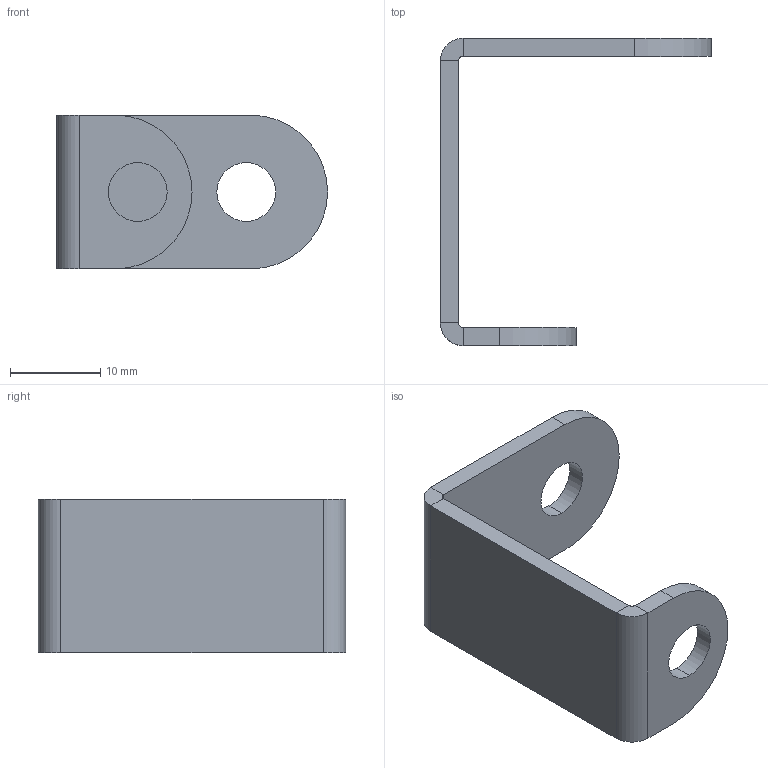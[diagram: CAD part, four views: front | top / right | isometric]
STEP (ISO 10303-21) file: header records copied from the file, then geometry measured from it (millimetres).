
FILE_DESCRIPTION (( 'STEP AP214' ), '1' );
FILE_NAME ('1C.906.003.STEP', '2011-10-05T10:29:22', ( '£ukasz Cieæka' ), ( '' ), 'SwSTEP 2.0', 'SolidWorks 2010', '' );
FILE_SCHEMA (( 'AUTOMOTIVE_DESIGN' ));
Length unit declared in the file: millimetre
Products named in the file (1): 1C.906.003
Bounding box: 30 x 34 x 17 mm (x, y, z)
Volume: 2249.4 mm3; surface area: 2664.8 mm2
Topology: 1 solids, 1 shells, 28 faces, 62 edges, 36 vertices
Faces by surface type: plane 16, cylinder 12
Entity records: 804 total; most frequent: DIRECTION 144, CARTESIAN_POINT 127, ORIENTED_EDGE 124, EDGE_CURVE 62, AXIS2_PLACEMENT_3D 53, VECTOR 38, LINE 38, VERTEX_POINT 36
